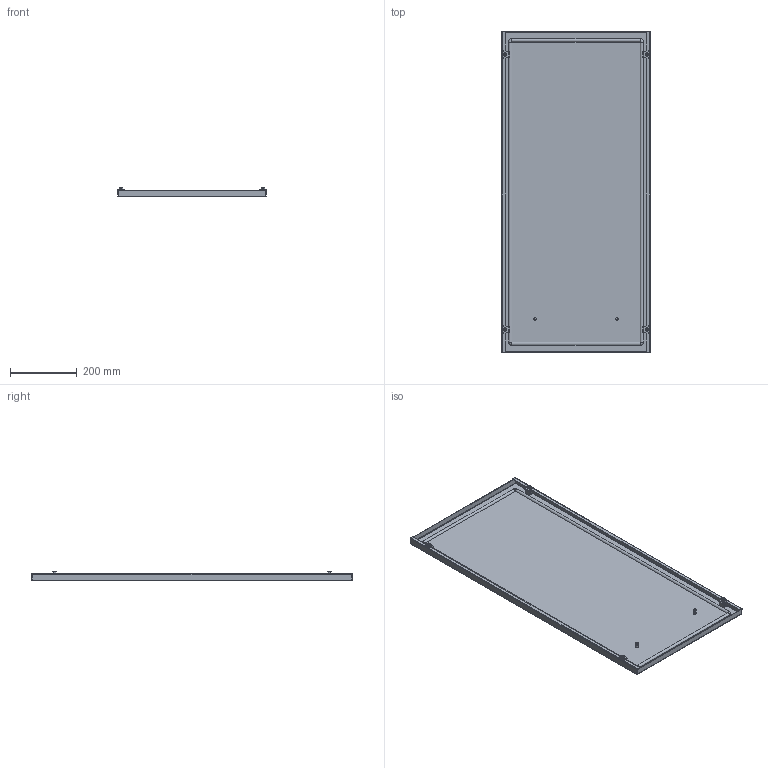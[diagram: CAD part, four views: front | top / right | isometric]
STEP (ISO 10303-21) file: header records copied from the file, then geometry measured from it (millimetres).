
FILE_DESCRIPTION (( 'STEP AP203' ), '1' );
FILE_NAME ('R5LE1052.STEP', '2020-07-15T06:49:36', ( '' ), ( '' ), 'SwSTEP 2.0', 'SolidWorks 2019', '' );
FILE_SCHEMA (( 'CONFIG_CONTROL_DESIGN' ));
Length unit declared in the file: millimetre
Products named in the file (9): AC00C061_AC00C061; RB.1161.00.00.0 捘_-01 (1000x500); AC00C171-R; M6x12 DIN 965 PH cl.4,8 Zinc_thread; RB.1161.00.01.0_-01 (1000x500); M6x10 DIN 912 HX cl.8,8 Zinc_thread; Ì6õ12-A5100231_straight; R5LE1052; PF 5x10 LE_-24 (1000x500)
Assembly tree (19 placements, depth 3):
  R5LE1052
    RB.1161.00.00.0 捘_-01 (1000x500)
      RB.1161.00.01.0_-01 (1000x500)
      Ì6õ12-A5100231_straight  x2
      PF 5x10 LE_-24 (1000x500)
      AC00C061_AC00C061  x2
    AC00C171-R  x4
    M6x12 DIN 965 PH cl.4,8 Zinc_thread  x4
    M6x10 DIN 912 HX cl.8,8 Zinc_thread  x4
Bounding box: 446 x 961 x 29.23 mm (x, y, z)
Volume: 869392.9 mm3; surface area: 1080065.9 mm2
Topology: 22 solids, 22 shells, 609 faces, 1356 edges, 798 vertices
Faces by surface type: plane 307, cone 170, cylinder 108, torus 16, bspline 8
Full cylindrical faces by diameter (mm): 5 x4, 5.5 x4, 5.9 x6, 6 x66, 7.5 x2, 8 x2, 10 x4, 11.3 x4
Entity records: 7266 total; most frequent: CARTESIAN_POINT 1342, DIRECTION 993, ORIENTED_EDGE 838, EDGE_CURVE 419, AXIS2_PLACEMENT_3D 369, EDGE_LOOP 317, VERTEX_POINT 286, FACE_OUTER_BOUND 256
